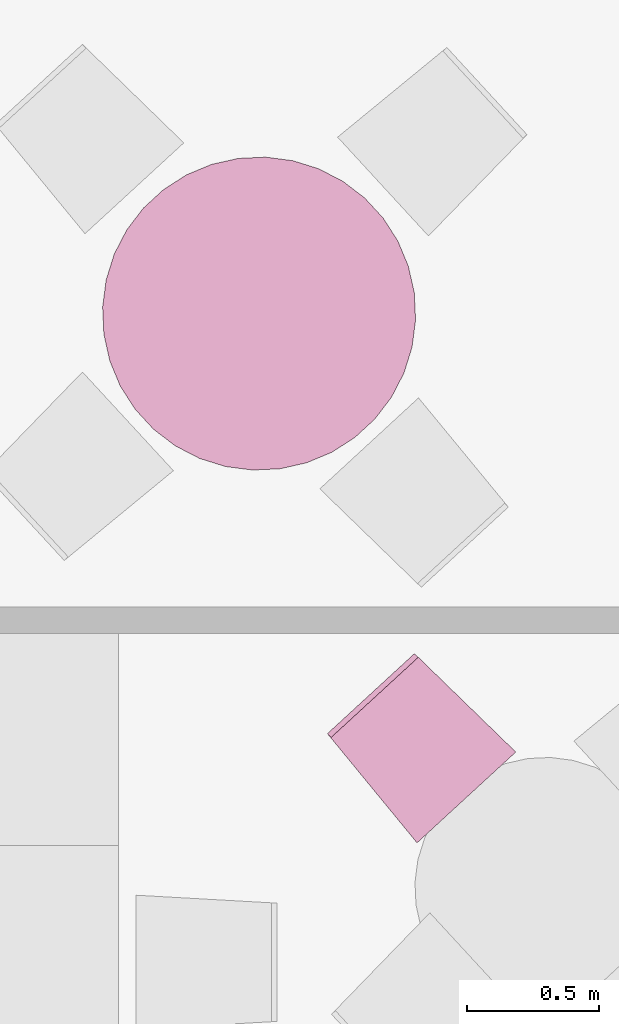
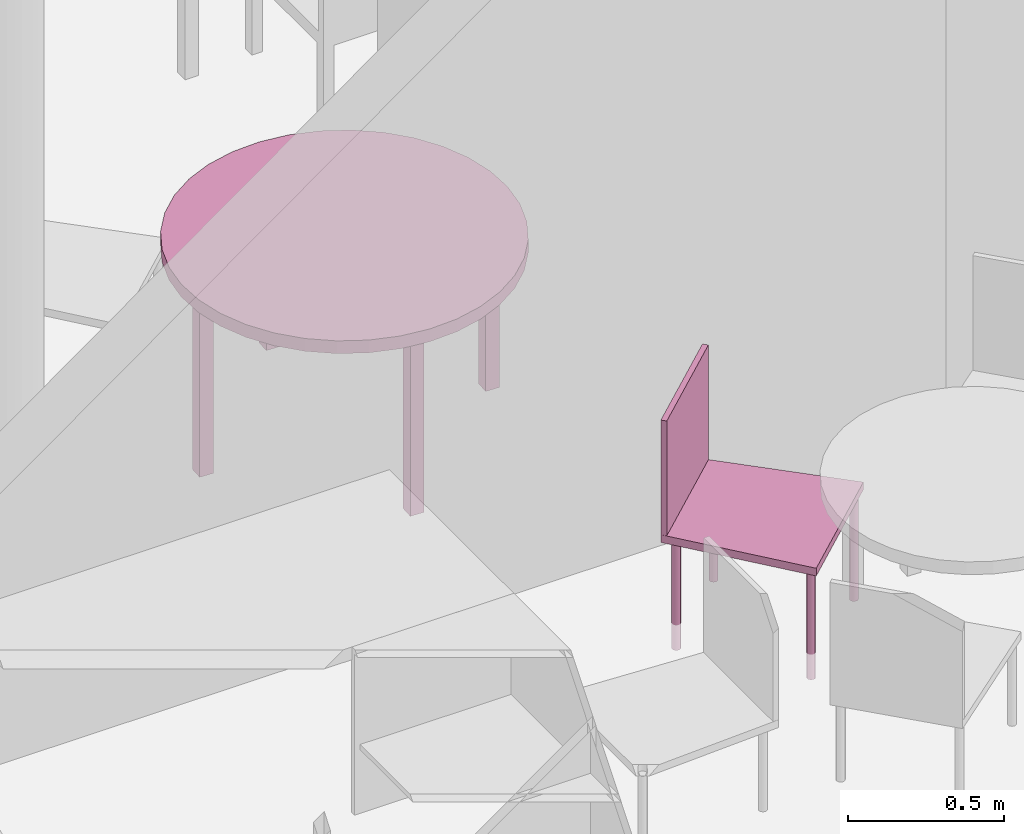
"""IFC4 building model written with IfcOpenShell, lengths in metres."""

from ifc_helpers import new_model, entity, si_unit, converted_unit, derived_unit, frame, origin, place, context, subcontext, project, spatial, faceted_brep, element, save


model = new_model("IFC4")

# Units and contexts
model_context = context("Model", 3, precision=1e-05, world=origin())
body_context = subcontext(model_context, "Body", "Model", "MODEL_VIEW")
ifc_project = project(units=[si_unit("LENGTHUNIT", "METRE"), si_unit("AREAUNIT", "SQUARE_METRE"), si_unit("VOLUMEUNIT", "CUBIC_METRE"), si_unit("MASSUNIT", "GRAM", prefix="KILO"), converted_unit("PLANEANGLEUNIT", "DEGREE", entity("IfcPlaneAngleMeasure", 0.0174532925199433), si_unit("PLANEANGLEUNIT", "RADIAN"), dimensions=[0, 0, 0, 0, 0, 0, 0]), derived_unit("THERMALTRANSMITTANCEUNIT", [(si_unit("POWERUNIT", "WATT"), 1), (si_unit("THERMODYNAMICTEMPERATUREUNIT", "KELVIN"), -1), (si_unit("LENGTHUNIT", "METRE"), -2)]), derived_unit("VOLUMETRICFLOWRATEUNIT", [(si_unit("LENGTHUNIT", "METRE"), 3), (converted_unit("TIMEUNIT", "hour", entity("IfcTimeMeasure", 3600.0), si_unit("TIMEUNIT", "SECOND"), dimensions=[0, 0, 1, 0, 0, 0, 0]), -1), (si_unit("LENGTHUNIT", "METRE"), -1)])], contexts=[model_context])

# Building, storeys
building_placement = place(None, origin())
building = spatial("IfcBuilding", under=ifc_project, at=building_placement, Name="HABITATGE PLURIFAMILIAR", CompositionType="ELEMENT")
storey_1_placement = place(building_placement, frame((0.0, 0.0, 12.27)))
storey_1 = spatial("IfcBuildingStorey", under=building, at=storey_1_placement, Name="PLANTA TERCERA", CompositionType="ELEMENT", Elevation=12.27)
storey_2_placement = place(storey_1_placement, frame((0.0, 0.0, 9.26)))
storey_2 = spatial("IfcBuildingStorey", under=storey_1, at=storey_2_placement, Name="NOU", CompositionType="PARTIAL")

# Furniture
furniture_1_placement = place(storey_2_placement, frame((401.692364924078, 23.0625635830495, -9.3599999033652)))
element("IfcFurniture", 1, at=furniture_1_placement, inside=storey_2, Name="Taula D120_P3", context=body_context, shape_type="Brep", body=[
    faceted_brep([(0.566234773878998, 0.0, 0.7), (0.669181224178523, 0.00472505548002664, 0.7), (0.769743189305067, 0.0272547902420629, 0.7), (0.864865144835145, 0.066904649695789, 0.7), (0.95165685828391, 0.122469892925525, 0.7), (1.02748120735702, 0.192262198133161, 0.7), (1.09003430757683, 0.274160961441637, 0.7), (1.13741551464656, 0.365677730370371, 0.7), (1.16818517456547, 0.46403181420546, 0.7), (1.18140836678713, 0.566234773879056, 0.7), (1.17668331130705, 0.669181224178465, 0.7), (1.15415357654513, 0.769743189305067, 0.7), (1.1145037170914, 0.864865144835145, 0.7), (1.05893847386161, 0.95165685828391, 0.7), (0.98914616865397, 1.02748120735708, 0.7), (0.907247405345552, 1.09003430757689, 0.7), (0.815730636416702, 1.13741551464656, 0.7), (0.717376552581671, 1.16818517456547, 0.7), (0.615173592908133, 1.18140836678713, 0.7), (0.512227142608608, 1.1766833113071, 0.7), (0.411665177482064, 1.15415357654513, 0.7), (0.316543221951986, 1.1145037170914, 0.7), (0.229751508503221, 1.05893847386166, 0.7), (0.15392715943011, 0.989146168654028, 0.7), (0.0913740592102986, 0.907247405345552, 0.7), (0.0439928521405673, 0.81573063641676, 0.7), (0.0132231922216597, 0.717376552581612, 0.7), (0.0, 0.615173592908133, 0.7), (0.00472505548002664, 0.512227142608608, 0.7), (0.0272547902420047, 0.411665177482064, 0.7), (0.0669046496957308, 0.316543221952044, 0.7), (0.122469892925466, 0.229751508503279, 0.7), (0.192262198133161, 0.15392715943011, 0.7), (0.274160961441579, 0.0913740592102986, 0.7), (0.365677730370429, 0.0439928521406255, 0.7), (0.46403181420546, 0.0132231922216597, 0.7), (0.566234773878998, 0.0, 0.75), (0.46403181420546, 0.0132231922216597, 0.75), (0.365677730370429, 0.0439928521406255, 0.75), (0.274160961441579, 0.0913740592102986, 0.75), (0.192262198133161, 0.15392715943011, 0.75), (0.122469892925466, 0.229751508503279, 0.75), (0.0669046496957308, 0.316543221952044, 0.75), (0.0272547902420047, 0.411665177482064, 0.75), (0.00472505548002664, 0.512227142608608, 0.75), (0.0, 0.615173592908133, 0.75), (0.0132231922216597, 0.717376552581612, 0.75), (0.0439928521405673, 0.81573063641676, 0.75), (0.0913740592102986, 0.907247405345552, 0.75), (0.15392715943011, 0.989146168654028, 0.75), (0.229751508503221, 1.05893847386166, 0.75), (0.316543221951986, 1.1145037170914, 0.75), (0.411665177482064, 1.15415357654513, 0.75), (0.512227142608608, 1.1766833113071, 0.75), (0.615173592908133, 1.18140836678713, 0.75), (0.717376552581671, 1.16818517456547, 0.75), (0.815730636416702, 1.13741551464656, 0.75), (0.907247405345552, 1.09003430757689, 0.75), (0.98914616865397, 1.02748120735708, 0.75), (1.05893847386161, 0.95165685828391, 0.75), (1.1145037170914, 0.864865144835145, 0.75), (1.15415357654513, 0.769743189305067, 0.75), (1.17668331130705, 0.669181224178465, 0.75), (1.18140836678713, 0.566234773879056, 0.75), (1.16818517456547, 0.46403181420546, 0.75), (1.13741551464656, 0.365677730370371, 0.75), (1.09003430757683, 0.274160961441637, 0.75), (1.02748120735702, 0.192262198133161, 0.75), (0.95165685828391, 0.122469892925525, 0.75), (0.864865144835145, 0.066904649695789, 0.75), (0.769743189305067, 0.0272547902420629, 0.75), (0.669181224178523, 0.00472505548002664, 0.75)], [[[0, 1, 2, 3, 4, 5, 6, 7, 8, 9, 10, 11, 12, 13, 14, 15, 16, 17, 18, 19, 20, 21, 22, 23, 24, 25, 26, 27, 28, 29, 30, 31, 32, 33, 34, 35]], [[36, 37, 38, 39, 40, 41, 42, 43, 44, 45, 46, 47, 48, 49, 50, 51, 52, 53, 54, 55, 56, 57, 58, 59, 60, 61, 62, 63, 64, 65, 66, 67, 68, 69, 70, 71]], [[1, 0, 36, 71]], [[2, 1, 71, 70]], [[3, 2, 70, 69]], [[4, 3, 69, 68]], [[5, 4, 68, 67]], [[6, 5, 67, 66]], [[7, 6, 66, 65]], [[8, 7, 65, 64]], [[9, 8, 64, 63]], [[10, 9, 63, 62]], [[11, 10, 62, 61]], [[12, 11, 61, 60]], [[13, 12, 60, 59]], [[14, 13, 59, 58]], [[15, 14, 58, 57]], [[16, 15, 57, 56]], [[17, 16, 56, 55]], [[18, 17, 55, 54]], [[19, 18, 54, 53]], [[20, 19, 53, 52]], [[21, 20, 52, 51]], [[22, 21, 51, 50]], [[23, 22, 50, 49]], [[24, 23, 49, 48]], [[25, 24, 48, 47]], [[26, 25, 47, 46]], [[27, 26, 46, 45]], [[28, 27, 45, 44]], [[29, 28, 44, 43]], [[30, 29, 43, 42]], [[31, 30, 42, 41]], [[32, 31, 41, 40]], [[33, 32, 40, 39]], [[34, 33, 39, 38]], [[35, 34, 38, 37]], [[0, 35, 37, 36]]], orient=[[False], [False], [False], [False], [False], [False], [False], [False], [False], [False], [False], [False], [False], [False], [False], [False], [False], [False], [False], [False], [False], [False], [False], [False], [False], [False], [False], [False], [False], [False], [False], [False], [False], [False], [False], [False], [False], [False]]),
    faceted_brep([(1.13402659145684, 0.582336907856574, 0.0), (1.08406943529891, 0.584406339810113, 0.0), (1.08200000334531, 0.534449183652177, 0.0), (1.13195715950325, 0.532379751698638, 0.0), (1.08406943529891, 0.584406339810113, 0.7), (1.13402659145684, 0.582336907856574, 0.7), (1.13195715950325, 0.532379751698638, 0.7), (1.08200000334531, 0.534449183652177, 0.7)], [[[0, 1, 2, 3]], [[4, 5, 6, 7]], [[1, 0, 5, 4]], [[2, 1, 4, 7]], [[3, 2, 7, 6]], [[0, 3, 6, 5]]], orient=[[False], [False], [False], [False], [False], [False]]),
    faceted_brep([(0.638184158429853, 1.13286481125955, 0.0), (0.588227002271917, 1.13493424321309, 0.0), (0.586157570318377, 1.08497708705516, 0.0), (0.636114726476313, 1.08290765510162, 0.0), (0.588227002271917, 1.13493424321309, 0.7), (0.638184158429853, 1.13286481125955, 0.7), (0.636114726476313, 1.08290765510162, 0.7), (0.586157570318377, 1.08497708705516, 0.7)], [[[0, 1, 2, 3]], [[4, 5, 6, 7]], [[1, 0, 5, 4]], [[2, 1, 4, 7]], [[3, 2, 7, 6]], [[0, 3, 6, 5]]], orient=[[False], [False], [False], [False], [False], [False]]),
    faceted_brep([(0.574688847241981, 0.0976411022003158, 0.0), (0.524731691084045, 0.0997105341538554, 0.0), (0.522662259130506, 0.0497533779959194, 0.0), (0.572619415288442, 0.0476839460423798, 0.0), (0.524731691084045, 0.0997105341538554, 0.7), (0.574688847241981, 0.0976411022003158, 0.7), (0.572619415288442, 0.0476839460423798, 0.7), (0.522662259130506, 0.0497533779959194, 0.7)], [[[0, 1, 2, 3]], [[4, 5, 6, 7]], [[1, 0, 5, 4]], [[2, 1, 4, 7]], [[3, 2, 7, 6]], [[0, 3, 6, 5]]], orient=[[False], [False], [False], [False], [False], [False]]),
    faceted_brep([(0.098150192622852, 0.625247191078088, 0.0), (0.0481930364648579, 0.627316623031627, 0.0), (0.0461236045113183, 0.577359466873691, 0.0), (0.0960807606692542, 0.575290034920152, 0.0), (0.0481930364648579, 0.627316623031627, 0.7), (0.098150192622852, 0.625247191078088, 0.7), (0.0960807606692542, 0.575290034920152, 0.7), (0.0461236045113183, 0.577359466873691, 0.7)], [[[0, 1, 2, 3]], [[4, 5, 6, 7]], [[1, 0, 5, 4]], [[2, 1, 4, 7]], [[3, 2, 7, 6]], [[0, 3, 6, 5]]], orient=[[False], [False], [False], [False], [False], [False]]),
])
furniture_2_placement = place(storey_2_placement, frame((402.541044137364, 21.6550361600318, -9.36074913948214)))
element("IfcFurniture", 2, at=furniture_2_placement, inside=storey_2, Name="Cadira confident_P3", context=body_context, shape_type="Brep", body=[
    faceted_brep([(0.328242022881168, 0.024755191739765, 0.0), (0.33016572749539, 0.0230003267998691, 0.0), (0.332364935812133, 0.021606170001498, 0.0), (0.334772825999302, 0.0206150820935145, 0.0), (0.337316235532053, 0.0200571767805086, 0.0), (0.339917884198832, 0.0199494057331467, 0.0), (0.342498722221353, 0.0202950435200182, 0.0), (0.344980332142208, 0.0210835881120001, 0.0), (0.34728731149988, 0.0222910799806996, 0.0), (0.349349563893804, 0.0238808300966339, 0.0), (0.351104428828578, 0.0258045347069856, 0.0), (0.352498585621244, 0.0280037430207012, 0.0), (0.353489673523, 0.0304116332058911, 0.0), (0.354047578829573, 0.032955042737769, 0.0), (0.354155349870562, 0.0355566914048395, 0.0), (0.353809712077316, 0.0381375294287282, 0.0), (0.353021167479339, 0.0406191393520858, 0.0), (0.351813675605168, 0.0429261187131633, 0.0), (0.350223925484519, 0.0449883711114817, 0.0), (0.34830022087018, 0.0467432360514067, 0.0), (0.346101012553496, 0.0481373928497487, 0.0), (0.343693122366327, 0.0491284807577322, 0.0), (0.341149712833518, 0.0496863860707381, 0.0), (0.338548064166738, 0.0497941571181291, 0.0), (0.335967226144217, 0.0494485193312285, 0.0), (0.333485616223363, 0.0486599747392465, 0.0), (0.331178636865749, 0.0474524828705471, 0.0), (0.329116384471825, 0.0458627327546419, 0.0), (0.327361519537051, 0.0439390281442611, 0.0), (0.325967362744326, 0.0417398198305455, 0.0), (0.324976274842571, 0.0393319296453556, 0.0), (0.324418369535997, 0.0367885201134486, 0.0), (0.324310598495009, 0.0341868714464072, 0.0), (0.324656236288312, 0.0316060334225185, 0.0), (0.32544478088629, 0.0291244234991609, 0.0), (0.326652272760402, 0.0268174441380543, 0.0), (0.328242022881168, 0.024755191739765, 0.448281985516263), (0.326652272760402, 0.0268174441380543, 0.448281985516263), (0.32544478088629, 0.0291244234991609, 0.448281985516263), (0.324656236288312, 0.0316060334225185, 0.448281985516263), (0.324310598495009, 0.0341868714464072, 0.448281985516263), (0.324418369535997, 0.0367885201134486, 0.448281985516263), (0.324976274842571, 0.0393319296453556, 0.448281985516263), (0.325967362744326, 0.0417398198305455, 0.448281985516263), (0.327361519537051, 0.0439390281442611, 0.448281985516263), (0.329116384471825, 0.0458627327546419, 0.448281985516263), (0.331178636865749, 0.0474524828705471, 0.448281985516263), (0.333485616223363, 0.0486599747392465, 0.448281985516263), (0.335967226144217, 0.0494485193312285, 0.448281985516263), (0.338548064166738, 0.0497941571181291, 0.448281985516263), (0.341149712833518, 0.0496863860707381, 0.448281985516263), (0.343693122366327, 0.0491284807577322, 0.448281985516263), (0.346101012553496, 0.0481373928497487, 0.448281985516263), (0.34830022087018, 0.0467432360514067, 0.448281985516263), (0.350223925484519, 0.0449883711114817, 0.448281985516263), (0.351813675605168, 0.0429261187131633, 0.448281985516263), (0.353021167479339, 0.0406191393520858, 0.448281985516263), (0.353809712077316, 0.0381375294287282, 0.448281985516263), (0.354155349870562, 0.0355566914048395, 0.448281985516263), (0.354047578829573, 0.032955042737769, 0.448281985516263), (0.353489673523, 0.0304116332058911, 0.448281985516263), (0.352498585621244, 0.0280037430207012, 0.448281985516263), (0.351104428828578, 0.0258045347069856, 0.448281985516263), (0.349349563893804, 0.0238808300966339, 0.448281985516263), (0.34728731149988, 0.0222910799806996, 0.448281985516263), (0.344980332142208, 0.0210835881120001, 0.448281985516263), (0.342498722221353, 0.0202950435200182, 0.448281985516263), (0.339917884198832, 0.0199494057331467, 0.448281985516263), (0.337316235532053, 0.0200571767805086, 0.448281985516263), (0.334772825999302, 0.0206150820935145, 0.448281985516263), (0.332364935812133, 0.021606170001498, 0.448281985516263), (0.33016572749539, 0.0230003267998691, 0.448281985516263)], [[[0, 1, 2, 3, 4, 5, 6, 7, 8, 9, 10, 11, 12, 13, 14, 15, 16, 17, 18, 19, 20, 21, 22, 23, 24, 25, 26, 27, 28, 29, 30, 31, 32, 33, 34, 35]], [[36, 37, 38, 39, 40, 41, 42, 43, 44, 45, 46, 47, 48, 49, 50, 51, 52, 53, 54, 55, 56, 57, 58, 59, 60, 61, 62, 63, 64, 65, 66, 67, 68, 69, 70, 71]], [[35, 37, 36, 0]], [[34, 38, 37, 35]], [[33, 39, 38, 34]], [[32, 40, 39, 33]], [[31, 41, 40, 32]], [[30, 42, 41, 31]], [[29, 43, 42, 30]], [[28, 44, 43, 29]], [[27, 45, 44, 28]], [[26, 46, 45, 27]], [[25, 47, 46, 26]], [[24, 48, 47, 25]], [[23, 49, 48, 24]], [[22, 50, 49, 23]], [[21, 51, 50, 22]], [[20, 52, 51, 21]], [[19, 53, 52, 20]], [[18, 54, 53, 19]], [[17, 55, 54, 18]], [[16, 56, 55, 17]], [[15, 57, 56, 16]], [[14, 58, 57, 15]], [[13, 59, 58, 14]], [[12, 60, 59, 13]], [[11, 61, 60, 12]], [[10, 62, 61, 11]], [[9, 63, 62, 10]], [[8, 64, 63, 9]], [[7, 65, 64, 8]], [[6, 66, 65, 7]], [[5, 67, 66, 6]], [[4, 68, 67, 5]], [[3, 69, 68, 4]], [[2, 70, 69, 3]], [[1, 71, 70, 2]], [[0, 36, 71, 1]]], orient=[[False], [False], [False], [False], [False], [False], [False], [False], [False], [False], [False], [False], [False], [False], [False], [False], [False], [False], [False], [False], [False], [False], [False], [False], [False], [False], [False], [False], [False], [False], [False], [False], [False], [False], [False], [False], [False], [False]]),
    faceted_brep([(0.0356304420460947, 0.383868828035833, 0.0), (0.0375541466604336, 0.382113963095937, 0.0), (0.0397533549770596, 0.380719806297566, 0.0), (0.0421612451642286, 0.379728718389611, 0.0), (0.0447046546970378, 0.379170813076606, 0.0), (0.0473063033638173, 0.379063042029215, 0.0), (0.0498871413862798, 0.379408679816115, 0.0), (0.0523687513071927, 0.380197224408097, 0.0), (0.0546757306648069, 0.381404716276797, 0.0), (0.0567379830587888, 0.382994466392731, 0.0), (0.0584928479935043, 0.384918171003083, 0.0), (0.0598870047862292, 0.387117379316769, 0.0), (0.0608780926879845, 0.389525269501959, 0.0), (0.0614359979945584, 0.392068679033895, 0.0), (0.0615437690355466, 0.394670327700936, 0.0), (0.0611981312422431, 0.397251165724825, 0.0), (0.0604095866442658, 0.399732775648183, 0.0), (0.0592020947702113, 0.402039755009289, 0.0), (0.0576123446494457, 0.40410200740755, 0.0), (0.055688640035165, 0.405856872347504, 0.0), (0.0534894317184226, 0.407251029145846, 0.0), (0.0510815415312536, 0.4082421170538, 0.0), (0.0485381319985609, 0.408800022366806, 0.0), (0.0459364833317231, 0.408907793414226, 0.0), (0.0433556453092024, 0.408562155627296, 0.0), (0.0408740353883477, 0.407773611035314, 0.0), (0.0385670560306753, 0.406566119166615, 0.0), (0.0365048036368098, 0.40497636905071, 0.0), (0.034749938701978, 0.403052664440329, 0.0), (0.0333557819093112, 0.400853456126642, 0.0), (0.0323646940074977, 0.398445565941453, 0.0), (0.031806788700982, 0.395902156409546, 0.0), (0.0316990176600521, 0.393300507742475, 0.0), (0.0320446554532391, 0.390719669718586, 0.0), (0.0328332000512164, 0.388238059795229, 0.0), (0.0340406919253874, 0.385931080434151, 0.0), (0.0356304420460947, 0.383868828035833, 0.448281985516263), (0.0340406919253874, 0.385931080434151, 0.448281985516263), (0.0328332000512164, 0.388238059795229, 0.448281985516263), (0.0320446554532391, 0.390719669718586, 0.448281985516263), (0.0316990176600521, 0.393300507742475, 0.448281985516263), (0.031806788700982, 0.395902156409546, 0.448281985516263), (0.0323646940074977, 0.398445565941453, 0.448281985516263), (0.0333557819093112, 0.400853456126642, 0.448281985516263), (0.034749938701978, 0.403052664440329, 0.448281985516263), (0.0365048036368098, 0.40497636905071, 0.448281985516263), (0.0385670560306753, 0.406566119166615, 0.448281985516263), (0.0408740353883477, 0.407773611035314, 0.448281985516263), (0.0433556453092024, 0.408562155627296, 0.448281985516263), (0.0459364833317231, 0.408907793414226, 0.448281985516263), (0.0485381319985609, 0.408800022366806, 0.448281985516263), (0.0510815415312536, 0.4082421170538, 0.448281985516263), (0.0534894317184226, 0.407251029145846, 0.448281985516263), (0.055688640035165, 0.405856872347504, 0.448281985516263), (0.0576123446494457, 0.40410200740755, 0.448281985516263), (0.0592020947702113, 0.402039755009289, 0.448281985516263), (0.0604095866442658, 0.399732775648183, 0.448281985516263), (0.0611981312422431, 0.397251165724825, 0.448281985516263), (0.0615437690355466, 0.394670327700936, 0.448281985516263), (0.0614359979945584, 0.392068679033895, 0.448281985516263), (0.0608780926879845, 0.389525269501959, 0.448281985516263), (0.0598870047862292, 0.387117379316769, 0.448281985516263), (0.0584928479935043, 0.384918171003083, 0.448281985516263), (0.0567379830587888, 0.382994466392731, 0.448281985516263), (0.0546757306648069, 0.381404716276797, 0.448281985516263), (0.0523687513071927, 0.380197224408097, 0.448281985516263), (0.0498871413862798, 0.379408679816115, 0.448281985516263), (0.0473063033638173, 0.379063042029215, 0.448281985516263), (0.0447046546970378, 0.379170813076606, 0.448281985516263), (0.0421612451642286, 0.379728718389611, 0.448281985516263), (0.0397533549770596, 0.380719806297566, 0.448281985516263), (0.0375541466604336, 0.382113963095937, 0.448281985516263)], [[[0, 1, 2, 3, 4, 5, 6, 7, 8, 9, 10, 11, 12, 13, 14, 15, 16, 17, 18, 19, 20, 21, 22, 23, 24, 25, 26, 27, 28, 29, 30, 31, 32, 33, 34, 35]], [[36, 37, 38, 39, 40, 41, 42, 43, 44, 45, 46, 47, 48, 49, 50, 51, 52, 53, 54, 55, 56, 57, 58, 59, 60, 61, 62, 63, 64, 65, 66, 67, 68, 69, 70, 71]], [[35, 37, 36, 0]], [[34, 38, 37, 35]], [[33, 39, 38, 34]], [[32, 40, 39, 33]], [[31, 41, 40, 32]], [[30, 42, 41, 31]], [[29, 43, 42, 30]], [[28, 44, 43, 29]], [[27, 45, 44, 28]], [[26, 46, 45, 27]], [[25, 47, 46, 26]], [[24, 48, 47, 25]], [[23, 49, 48, 24]], [[22, 50, 49, 23]], [[21, 51, 50, 22]], [[20, 52, 51, 21]], [[19, 53, 52, 20]], [[18, 54, 53, 19]], [[17, 55, 54, 18]], [[16, 56, 55, 17]], [[15, 57, 56, 16]], [[14, 58, 57, 15]], [[13, 59, 58, 14]], [[12, 60, 59, 13]], [[11, 61, 60, 12]], [[10, 62, 61, 11]], [[9, 63, 62, 10]], [[8, 64, 63, 9]], [[7, 65, 64, 8]], [[6, 66, 65, 7]], [[5, 67, 66, 6]], [[4, 68, 67, 5]], [[3, 69, 68, 4]], [[2, 70, 69, 3]], [[1, 71, 70, 2]], [[0, 36, 71, 1]]], orient=[[False], [False], [False], [False], [False], [False], [False], [False], [False], [False], [False], [False], [False], [False], [False], [False], [False], [False], [False], [False], [False], [False], [False], [False], [False], [False], [False], [False], [False], [False], [False], [False], [False], [False], [False], [False], [False], [False]]),
    faceted_brep([(0.666878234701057, 0.336083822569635, 0.0), (0.668801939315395, 0.33432895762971, 0.0), (0.671001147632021, 0.332934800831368, 0.0), (0.67340903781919, 0.331943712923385, 0.0), (0.675952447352, 0.331385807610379, 0.0), (0.678554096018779, 0.331278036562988, 0.0), (0.6811349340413, 0.331623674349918, 0.0), (0.683616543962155, 0.332412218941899, 0.0), (0.685923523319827, 0.333619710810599, 0.0), (0.687985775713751, 0.335209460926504, 0.0), (0.689740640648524, 0.337133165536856, 0.0), (0.691134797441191, 0.339332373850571, 0.0), (0.692125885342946, 0.341740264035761, 0.0), (0.69268379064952, 0.344283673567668, 0.0), (0.692791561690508, 0.34688532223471, 0.0), (0.692445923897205, 0.349466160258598, 0.0), (0.691657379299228, 0.351947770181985, 0.0), (0.690449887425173, 0.354254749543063, 0.0), (0.688860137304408, 0.356317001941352, 0.0), (0.686936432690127, 0.358071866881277, 0.0), (0.684737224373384, 0.359466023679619, 0.0), (0.682329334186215, 0.360457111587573, 0.0), (0.679785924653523, 0.361015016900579, 0.0), (0.677184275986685, 0.361122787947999, 0.0), (0.674603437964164, 0.360777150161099, 0.0), (0.67212182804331, 0.359988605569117, 0.0), (0.669814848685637, 0.358781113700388, 0.0), (0.667752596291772, 0.357191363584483, 0.0), (0.66599773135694, 0.355267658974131, 0.0), (0.664603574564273, 0.353068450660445, 0.0), (0.663612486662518, 0.350660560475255, 0.0), (0.663054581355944, 0.348117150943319, 0.0), (0.662946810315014, 0.345515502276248, 0.0), (0.663292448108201, 0.34293466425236, 0.0), (0.664080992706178, 0.340453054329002, 0.0), (0.665288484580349, 0.338146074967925, 0.0), (0.666878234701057, 0.336083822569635, 0.448281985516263), (0.665288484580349, 0.338146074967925, 0.448281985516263), (0.664080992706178, 0.340453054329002, 0.448281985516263), (0.663292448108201, 0.34293466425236, 0.448281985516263), (0.662946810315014, 0.345515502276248, 0.448281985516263), (0.663054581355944, 0.348117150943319, 0.448281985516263), (0.663612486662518, 0.350660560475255, 0.448281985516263), (0.664603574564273, 0.353068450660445, 0.448281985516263), (0.66599773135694, 0.355267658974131, 0.448281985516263), (0.667752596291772, 0.357191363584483, 0.448281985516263), (0.669814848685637, 0.358781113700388, 0.448281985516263), (0.67212182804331, 0.359988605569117, 0.448281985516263), (0.674603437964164, 0.360777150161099, 0.448281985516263), (0.677184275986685, 0.361122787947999, 0.448281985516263), (0.679785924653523, 0.361015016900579, 0.448281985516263), (0.682329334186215, 0.360457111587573, 0.448281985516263), (0.684737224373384, 0.359466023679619, 0.448281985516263), (0.686936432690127, 0.358071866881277, 0.448281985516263), (0.688860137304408, 0.356317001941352, 0.448281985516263), (0.690449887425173, 0.354254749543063, 0.448281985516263), (0.691657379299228, 0.351947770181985, 0.448281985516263), (0.692445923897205, 0.349466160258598, 0.448281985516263), (0.692791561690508, 0.34688532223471, 0.448281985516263), (0.69268379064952, 0.344283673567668, 0.448281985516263), (0.692125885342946, 0.341740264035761, 0.448281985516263), (0.691134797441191, 0.339332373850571, 0.448281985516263), (0.689740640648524, 0.337133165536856, 0.448281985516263), (0.687985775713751, 0.335209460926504, 0.448281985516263), (0.685923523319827, 0.333619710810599, 0.448281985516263), (0.683616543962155, 0.332412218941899, 0.448281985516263), (0.6811349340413, 0.331623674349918, 0.448281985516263), (0.678554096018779, 0.331278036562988, 0.448281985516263), (0.675952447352, 0.331385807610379, 0.448281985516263), (0.67340903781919, 0.331943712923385, 0.448281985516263), (0.671001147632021, 0.332934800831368, 0.448281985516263), (0.668801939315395, 0.33432895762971, 0.448281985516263)], [[[0, 1, 2, 3, 4, 5, 6, 7, 8, 9, 10, 11, 12, 13, 14, 15, 16, 17, 18, 19, 20, 21, 22, 23, 24, 25, 26, 27, 28, 29, 30, 31, 32, 33, 34, 35]], [[36, 37, 38, 39, 40, 41, 42, 43, 44, 45, 46, 47, 48, 49, 50, 51, 52, 53, 54, 55, 56, 57, 58, 59, 60, 61, 62, 63, 64, 65, 66, 67, 68, 69, 70, 71]], [[35, 37, 36, 0]], [[34, 38, 37, 35]], [[33, 39, 38, 34]], [[32, 40, 39, 33]], [[31, 41, 40, 32]], [[30, 42, 41, 31]], [[29, 43, 42, 30]], [[28, 44, 43, 29]], [[27, 45, 44, 28]], [[26, 46, 45, 27]], [[25, 47, 46, 26]], [[24, 48, 47, 25]], [[23, 49, 48, 24]], [[22, 50, 49, 23]], [[21, 51, 50, 22]], [[20, 52, 51, 21]], [[19, 53, 52, 20]], [[18, 54, 53, 19]], [[17, 55, 54, 18]], [[16, 56, 55, 17]], [[15, 57, 56, 16]], [[14, 58, 57, 15]], [[13, 59, 58, 14]], [[12, 60, 59, 13]], [[11, 61, 60, 12]], [[10, 62, 61, 11]], [[9, 63, 62, 10]], [[8, 64, 63, 9]], [[7, 65, 64, 8]], [[6, 66, 65, 7]], [[5, 67, 66, 6]], [[4, 68, 67, 5]], [[3, 69, 68, 4]], [[2, 70, 69, 3]], [[1, 71, 70, 2]], [[0, 36, 71, 1]]], orient=[[False], [False], [False], [False], [False], [False], [False], [False], [False], [False], [False], [False], [False], [False], [False], [False], [False], [False], [False], [False], [False], [False], [False], [False], [False], [False], [False], [False], [False], [False], [False], [False], [False], [False], [False], [False], [False], [False]]),
    faceted_brep([(0.330096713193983, 0.654589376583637, 0.0), (0.332020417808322, 0.652834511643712, 0.0), (0.334219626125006, 0.65144035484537, 0.0), (0.336627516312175, 0.650449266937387, 0.0), (0.339170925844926, 0.649891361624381, 0.0), (0.341772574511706, 0.64978359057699, 0.0), (0.344353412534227, 0.65012922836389, 0.0), (0.346835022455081, 0.650917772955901, 0.0), (0.349142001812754, 0.652125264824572, 0.0), (0.351204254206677, 0.653715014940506, 0.0), (0.352959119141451, 0.655638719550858, 0.0), (0.354353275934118, 0.657837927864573, 0.0), (0.355344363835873, 0.660245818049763, 0.0), (0.355902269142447, 0.66278922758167, 0.0), (0.356010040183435, 0.665390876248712, 0.0), (0.35566440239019, 0.6679717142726, 0.0), (0.354875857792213, 0.670453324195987, 0.0), (0.3536683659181, 0.672760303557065, 0.0), (0.352078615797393, 0.674822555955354, 0.0), (0.350154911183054, 0.676577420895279, 0.0), (0.347955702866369, 0.67797157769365, 0.0), (0.3455478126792, 0.678962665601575, 0.0), (0.343004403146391, 0.67952057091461, 0.0), (0.340402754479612, 0.679628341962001, 0.0), (0.337821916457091, 0.679282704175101, 0.0), (0.335340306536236, 0.678494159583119, 0.0), (0.333033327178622, 0.677286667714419, 0.0), (0.330971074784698, 0.675696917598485, 0.0), (0.329216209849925, 0.673773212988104, 0.0), (0.3278220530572, 0.671574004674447, 0.0), (0.326830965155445, 0.669166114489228, 0.0), (0.326273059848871, 0.666622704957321, 0.0), (0.326165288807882, 0.66402105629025, 0.0), (0.326510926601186, 0.661440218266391, 0.0), (0.327299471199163, 0.658958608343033, 0.0), (0.328506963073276, 0.656651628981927, 0.0), (0.330096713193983, 0.654589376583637, 0.448281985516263), (0.328506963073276, 0.656651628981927, 0.448281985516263), (0.327299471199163, 0.658958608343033, 0.448281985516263), (0.326510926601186, 0.661440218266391, 0.448281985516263), (0.326165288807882, 0.66402105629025, 0.448281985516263), (0.326273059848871, 0.666622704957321, 0.448281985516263), (0.326830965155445, 0.669166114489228, 0.448281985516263), (0.3278220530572, 0.671574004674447, 0.448281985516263), (0.329216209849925, 0.673773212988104, 0.448281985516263), (0.330971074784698, 0.675696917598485, 0.448281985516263), (0.333033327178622, 0.677286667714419, 0.448281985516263), (0.335340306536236, 0.678494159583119, 0.448281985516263), (0.337821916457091, 0.679282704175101, 0.448281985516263), (0.340402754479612, 0.679628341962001, 0.448281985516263), (0.343004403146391, 0.67952057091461, 0.448281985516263), (0.3455478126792, 0.678962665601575, 0.448281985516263), (0.347955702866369, 0.67797157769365, 0.448281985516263), (0.350154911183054, 0.676577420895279, 0.448281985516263), (0.352078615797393, 0.674822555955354, 0.448281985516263), (0.3536683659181, 0.672760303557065, 0.448281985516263), (0.354875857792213, 0.670453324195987, 0.448281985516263), (0.35566440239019, 0.6679717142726, 0.448281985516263), (0.356010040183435, 0.665390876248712, 0.448281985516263), (0.355902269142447, 0.66278922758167, 0.448281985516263), (0.355344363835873, 0.660245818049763, 0.448281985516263), (0.354353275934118, 0.657837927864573, 0.448281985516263), (0.352959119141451, 0.655638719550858, 0.448281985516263), (0.351204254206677, 0.653715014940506, 0.448281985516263), (0.349142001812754, 0.652125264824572, 0.448281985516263), (0.346835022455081, 0.650917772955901, 0.448281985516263), (0.344353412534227, 0.65012922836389, 0.448281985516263), (0.341772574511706, 0.64978359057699, 0.448281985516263), (0.339170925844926, 0.649891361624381, 0.448281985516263), (0.336627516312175, 0.650449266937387, 0.448281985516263), (0.334219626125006, 0.65144035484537, 0.448281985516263), (0.332020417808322, 0.652834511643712, 0.448281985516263)], [[[0, 1, 2, 3, 4, 5, 6, 7, 8, 9, 10, 11, 12, 13, 14, 15, 16, 17, 18, 19, 20, 21, 22, 23, 24, 25, 26, 27, 28, 29, 30, 31, 32, 33, 34, 35]], [[36, 37, 38, 39, 40, 41, 42, 43, 44, 45, 46, 47, 48, 49, 50, 51, 52, 53, 54, 55, 56, 57, 58, 59, 60, 61, 62, 63, 64, 65, 66, 67, 68, 69, 70, 71]], [[35, 37, 36, 0]], [[34, 38, 37, 35]], [[33, 39, 38, 34]], [[32, 40, 39, 33]], [[31, 41, 40, 32]], [[30, 42, 41, 31]], [[29, 43, 42, 30]], [[28, 44, 43, 29]], [[27, 45, 44, 28]], [[26, 46, 45, 27]], [[25, 47, 46, 26]], [[24, 48, 47, 25]], [[23, 49, 48, 24]], [[22, 50, 49, 23]], [[21, 51, 50, 22]], [[20, 52, 51, 21]], [[19, 53, 52, 20]], [[18, 54, 53, 19]], [[17, 55, 54, 18]], [[16, 56, 55, 17]], [[15, 57, 56, 16]], [[14, 58, 57, 15]], [[13, 59, 58, 14]], [[12, 60, 59, 13]], [[11, 61, 60, 12]], [[10, 62, 61, 11]], [[9, 63, 62, 10]], [[8, 64, 63, 9]], [[7, 65, 64, 8]], [[6, 66, 65, 7]], [[5, 67, 66, 6]], [[4, 68, 67, 5]], [[3, 69, 68, 4]], [[2, 70, 69, 3]], [[1, 71, 70, 2]], [[0, 36, 71, 1]]], orient=[[False], [False], [False], [False], [False], [False], [False], [False], [False], [False], [False], [False], [False], [False], [False], [False], [False], [False], [False], [False], [False], [False], [False], [False], [False], [False], [False], [False], [False], [False], [False], [False], [False], [False], [False], [False], [False], [False]]),
    faceted_brep([(0.328708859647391, 0.714593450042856, 0.418281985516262), (0.0, 0.412391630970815, 0.418281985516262), (0.338384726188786, 0.0, 0.418281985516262), (0.711263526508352, 0.342809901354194, 0.418281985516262), (0.711263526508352, 0.342809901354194, 0.448281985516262), (0.338384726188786, 0.0, 0.448281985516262), (0.0, 0.412391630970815, 0.448281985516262), (0.328708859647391, 0.714593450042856, 0.448281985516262)], [[[0, 1, 2, 3]], [[4, 5, 6, 7]], [[3, 4, 7, 0]], [[2, 5, 4, 3]], [[1, 6, 5, 2]], [[0, 7, 6, 1]]], orient=[[False], [False], [False], [False], [False], [False]]),
    faceted_brep([(0.342244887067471, 0.699870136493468, 0.448281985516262), (0.32870885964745, 0.714593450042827, 0.448281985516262), (0.0, 0.412391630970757, 0.448281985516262), (0.0135360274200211, 0.397668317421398, 0.448281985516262), (0.0135360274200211, 0.397668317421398, 0.89828198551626), (0.0, 0.412391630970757, 0.89828198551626), (0.32870885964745, 0.714593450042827, 0.89828198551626), (0.342244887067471, 0.699870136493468, 0.89828198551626)], [[[0, 1, 2, 3]], [[4, 5, 6, 7]], [[3, 4, 7, 0]], [[2, 5, 4, 3]], [[1, 6, 5, 2]], [[0, 7, 6, 1]]], orient=[[False], [False], [False], [False], [False], [False]]),
])

save(model, "model.ifc")
